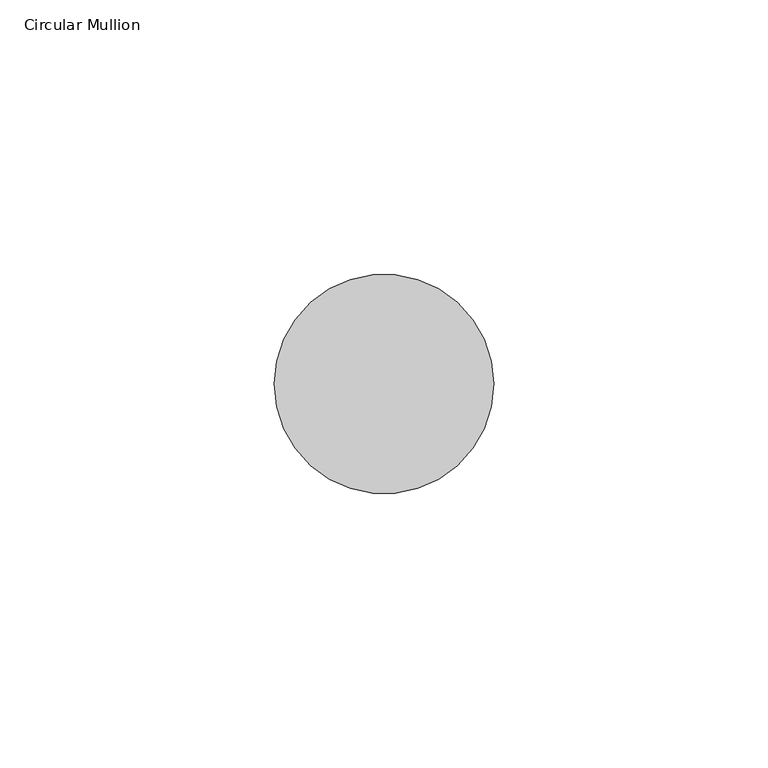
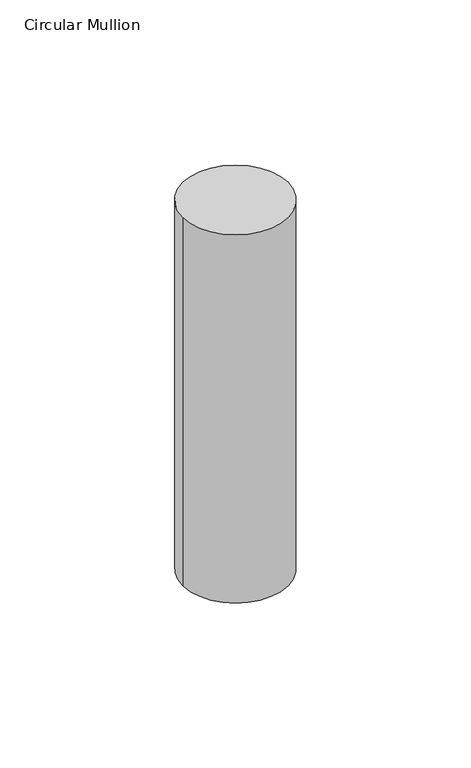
"""IFC4 building model written with IfcOpenShell, lengths in millimetres: member geometry, Circular Mullion : GRADIL 40mm."""

from ifc_helpers import new_model, si_unit, point, frame, origin, origin_2d, place, context, project, spatial, circle_curve, trimmed, segment, composite_curve, outline, extrude, source, transform, mapped, element, save


def circular_mullion_0b7657d8(model_context):
    return source(origin(), model_context, "Body", "SweptSolid", [
        extrude(outline(composite_curve([segment(trimmed(circle_curve(origin_2d(), 20.0), [point((20.0, 0.0))], [point((-20.0, 0.0))], False, "CARTESIAN"), True, "CONTINUOUS"), segment(trimmed(circle_curve(origin_2d(), 20.0), [point((-20.0, 0.0))], [point((20.0, 0.0))], False, "CARTESIAN"), True, "CONTINUOUS")], self_intersect=False)), frame((0.0, 0.0, -147.6826185), z_axis=(0.0, 0.0, 1.0), x_axis=(1.0, 0.0, 0.0)), (0.0, 0.0, 1.0), 147.6826185),
    ])


if __name__ == "__main__":
    model = new_model("IFC4")
    model_context = context("Model", 3, world=origin())
    ifc_project = project(units=[si_unit("LENGTHUNIT", "METRE", prefix="MILLI")], contexts=[model_context])
    site = spatial("IfcSite", under=ifc_project)
    building = spatial("IfcBuilding", under=site)
    placement = place(None, origin())
    circular_mullion_shape = circular_mullion_0b7657d8(model_context)
    element("IfcMember", 1, ObjectType="Circular Mullion : GRADIL 40mm", at=placement, inside=building, context=model_context, shape_type="MappedRepresentation", body=[
        mapped(circular_mullion_shape, transform((0.0, 0.0, 0.0), x_axis=(1.0, 0.0, 0.0), y_axis=(0.0, 1.0, 0.0), z_axis=(0.0, 0.0, 1.0))),
    ])
    save(model, "model.ifc")
